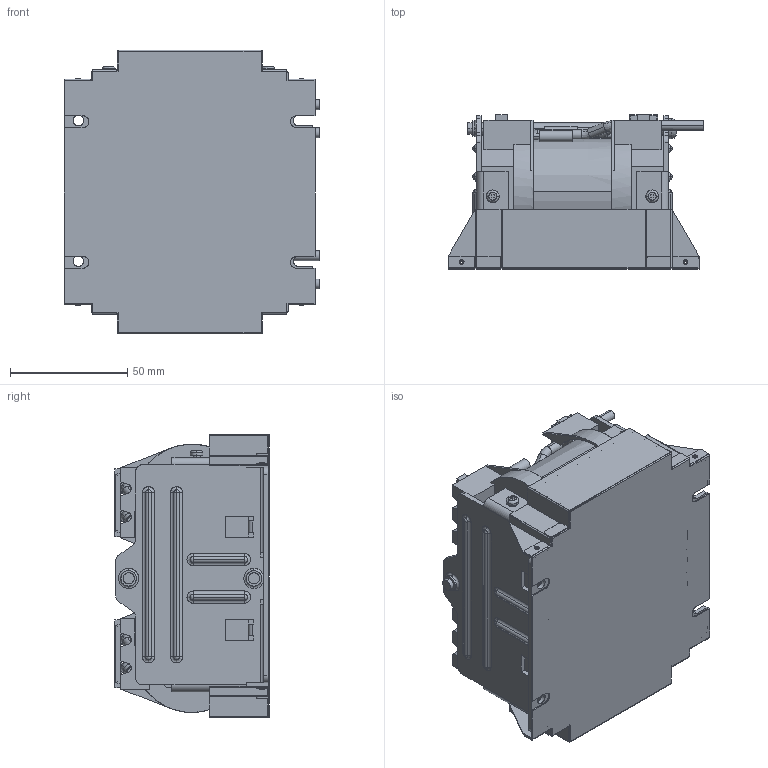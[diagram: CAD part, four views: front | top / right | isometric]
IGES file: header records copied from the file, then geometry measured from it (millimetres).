
Start section: SolidWorks IGES file using analytic representation for surfaces
Global section: file name: 40H\\10.106.230.1\R&D File\05_COMP\02_Mechanical\10_Others\PV_RT 81\网络用3D模型\半灌封模型\5KW_G_CB-DCL\SP11214B-GM00DS20R(M-5KW_CB-DCL-G).IGS; native system: SolidWorks 2009; preprocessor: SolidWorks 2009; author: Administrator; date: 120508.165953; units: millimetre
Bounding box: 109 x 65.9 x 121 mm (x, y, z)
Surface area: 172453.6 mm2 (no closed solid volume)
Topology: 0 solids, 0 shells, 1269 faces, 10175 edges, 10146 vertices
Faces by surface type: bspline 813, revolution 456
